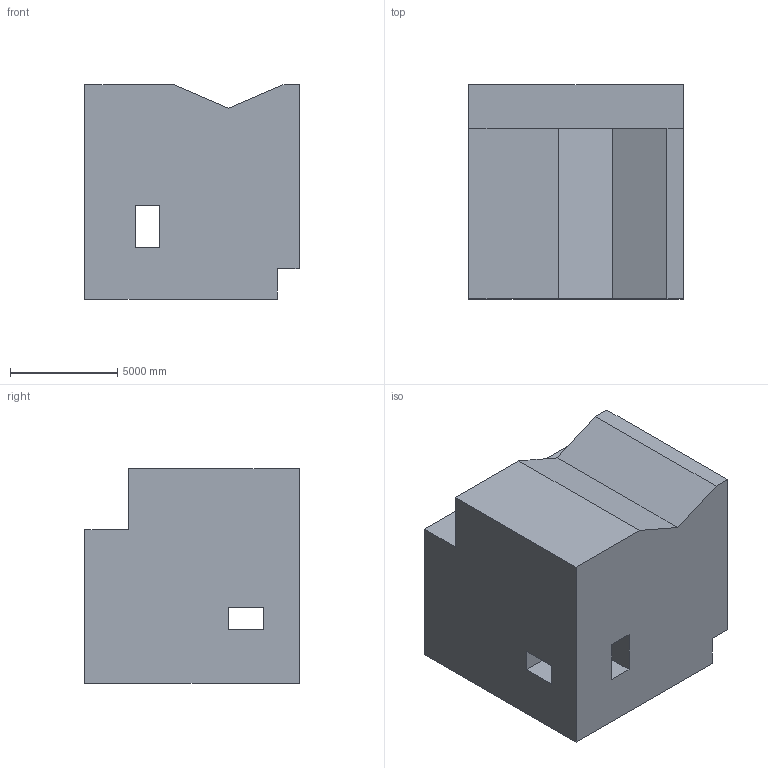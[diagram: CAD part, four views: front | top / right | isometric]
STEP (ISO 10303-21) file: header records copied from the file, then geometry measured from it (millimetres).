
FILE_DESCRIPTION (( 'STEP AP203' ), '1' );
FILE_NAME ('535.STEP', '2022-08-04T14:30:05', ( 'user' ), ( '' ), 'SwSTEP 2.0', 'SolidWorks 2021', '' );
FILE_SCHEMA (( 'CONFIG_CONTROL_DESIGN' ));
Length unit declared in the file: centimetre
Products named in the file (1): 535
Bounding box: 10000 x 10000 x 10000 mm (x, y, z)
Volume: 864285738174.3 mm3; surface area: 697380064.4 mm2
Topology: 1 solids, 1 shells, 29 faces, 78 edges, 52 vertices
Faces by surface type: plane 29
Entity records: 981 total; most frequent: CARTESIAN_POINT 160, ORIENTED_EDGE 156, DIRECTION 138, LINE 78, EDGE_CURVE 78, VECTOR 78, VERTEX_POINT 52, EDGE_LOOP 36
